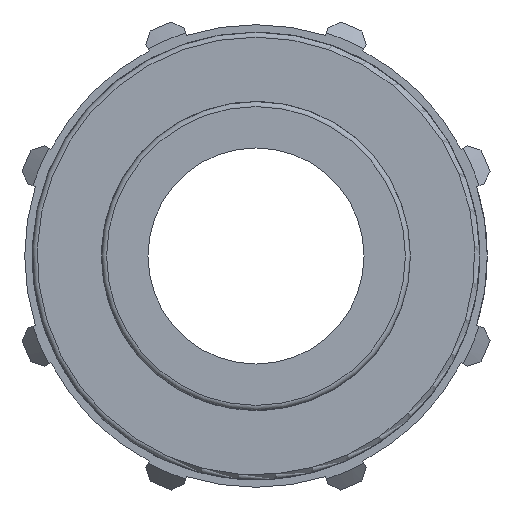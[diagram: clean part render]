
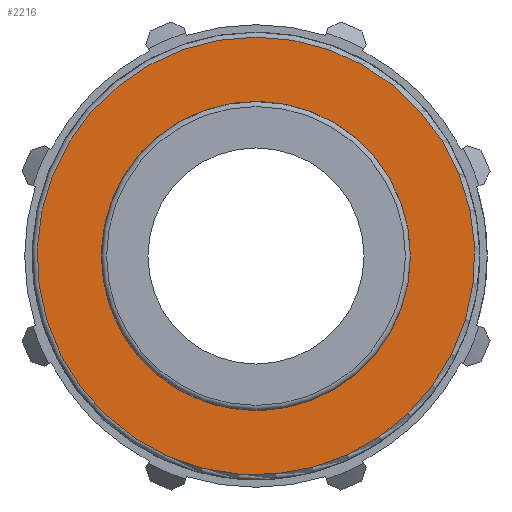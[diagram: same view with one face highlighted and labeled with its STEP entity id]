
A CAD part, left-side view. The second image highlights one B-rep face of the part: STEP entity #2216.
In plain terms, the highlighted planar face has unit normal (-1, 0, 0).
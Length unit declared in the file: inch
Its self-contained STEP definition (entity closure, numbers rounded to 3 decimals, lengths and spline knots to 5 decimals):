
#422=FACE_BOUND('',#639,.T.);
#435=PLANE('',#2401);
#514=FACE_OUTER_BOUND('',#638,.T.);
#638=EDGE_LOOP('',(#1534,#1535));
#639=EDGE_LOOP('',(#1536,#1537));
#746=CIRCLE('',#2341,1.1735);
#747=CIRCLE('',#2342,1.1735);
#784=CIRCLE('',#2399,1.66313);
#785=CIRCLE('',#2400,1.66313);
#863=VERTEX_POINT('',#3209);
#864=VERTEX_POINT('',#3210);
#930=VERTEX_POINT('',#3599);
#931=VERTEX_POINT('',#3601);
#1087=EDGE_CURVE('',#863,#864,#746,.T.);
#1088=EDGE_CURVE('',#864,#863,#747,.T.);
#1175=EDGE_CURVE('',#930,#931,#784,.T.);
#1176=EDGE_CURVE('',#931,#930,#785,.T.);
#1534=ORIENTED_EDGE('',*,*,#1176,.F.);
#1535=ORIENTED_EDGE('',*,*,#1175,.F.);
#1536=ORIENTED_EDGE('',*,*,#1087,.T.);
#1537=ORIENTED_EDGE('',*,*,#1088,.T.);
#2216=ADVANCED_FACE('',(#514,#422),#435,.T.);
#2341=AXIS2_PLACEMENT_3D('',#3211,#2589,#2590);
#2342=AXIS2_PLACEMENT_3D('',#3212,#2591,#2592);
#2399=AXIS2_PLACEMENT_3D('',#3602,#2731,#2732);
#2400=AXIS2_PLACEMENT_3D('',#3603,#2733,#2734);
#2401=AXIS2_PLACEMENT_3D('',#3604,#2735,#2736);
#2589=DIRECTION('center_axis',(1.,0.,0.));
#2590=DIRECTION('ref_axis',(0.,0.,-1.));
#2591=DIRECTION('center_axis',(1.,0.,0.));
#2592=DIRECTION('ref_axis',(0.,0.,-1.));
#2731=DIRECTION('center_axis',(1.,0.,0.));
#2732=DIRECTION('ref_axis',(0.,-0.552,0.834));
#2733=DIRECTION('center_axis',(1.,0.,0.));
#2734=DIRECTION('ref_axis',(0.,-0.552,0.834));
#2735=DIRECTION('center_axis',(-1.,0.,0.));
#2736=DIRECTION('ref_axis',(0.,0.,1.));
#3209=CARTESIAN_POINT('',(1.02,0.67402,-0.96063));
#3210=CARTESIAN_POINT('',(1.02,-1.1735,0.));
#3211=CARTESIAN_POINT('Origin',(1.02,0.,0.));
#3212=CARTESIAN_POINT('Origin',(1.02,0.,0.));
#3599=CARTESIAN_POINT('',(1.02,0.,1.66313));
#3601=CARTESIAN_POINT('',(1.02,0.91758,-1.3871));
#3602=CARTESIAN_POINT('Origin',(1.02,0.,0.));
#3603=CARTESIAN_POINT('Origin',(1.02,0.,0.));
#3604=CARTESIAN_POINT('Origin',(1.02,1.701,0.));
